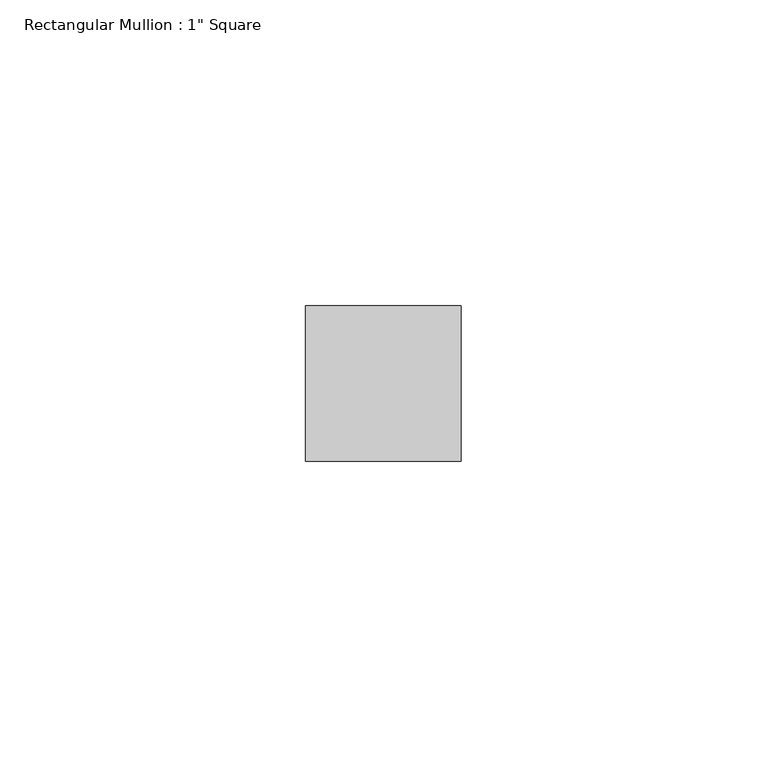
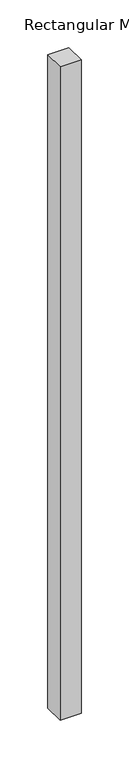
"""IFC4 building model written with IfcOpenShell, lengths in millimetres: member geometry."""

from ifc_helpers import new_model, si_unit, frame, origin, place, context, project, spatial, polyline, outline, extrude, source, transform, mapped, element, save


def member_4ad77235(model_context):
    return source(origin(), model_context, "Body", "SweptSolid", [
        extrude(outline(polyline([(12.7, 12.7), (12.7, -12.7), (-12.7, -12.7), (-12.7, 12.7), (12.7, 12.7)])), frame((0.0, 0.0, -833.34551), z_axis=(0.0, 0.0, 1.0), x_axis=(1.0, 0.0, 0.0)), (0.0, 0.0, 1.0), 833.34551),
    ])


if __name__ == "__main__":
    model = new_model("IFC4")
    model_context = context("Model", 3, world=origin())
    ifc_project = project(units=[si_unit("LENGTHUNIT", "METRE", prefix="MILLI")], contexts=[model_context])
    site = spatial("IfcSite", under=ifc_project)
    building = spatial("IfcBuilding", under=site)
    placement = place(None, origin())
    member_shape = member_4ad77235(model_context)
    element("IfcMember", 1, ObjectType="Rectangular Mullion : 1\" Square", at=placement, inside=building, context=model_context, shape_type="MappedRepresentation", body=[
        mapped(member_shape, transform((0.0, 0.0, 0.0), x_axis=(1.0, 0.0, 0.0), y_axis=(0.0, 1.0, 0.0), z_axis=(0.0, 0.0, 1.0))),
    ])
    save(model, "model.ifc")
